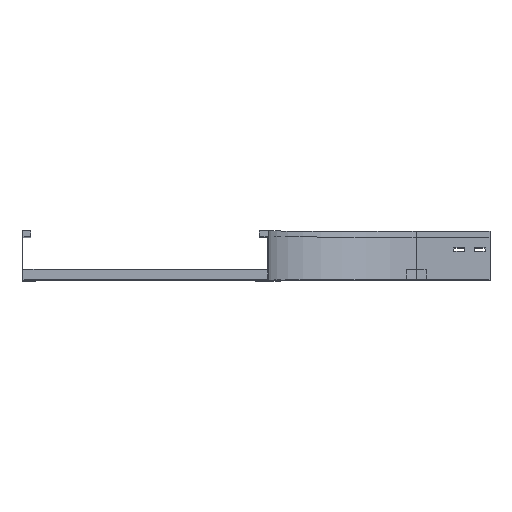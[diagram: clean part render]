
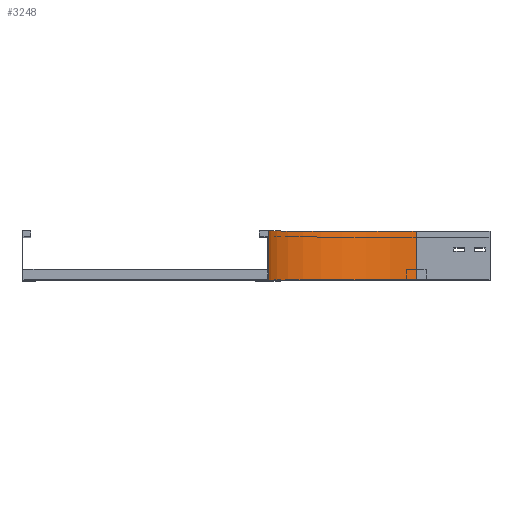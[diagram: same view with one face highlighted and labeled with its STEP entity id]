
A CAD part, top view. The second image highlights one B-rep face of the part: STEP entity #3248.
In plain terms, the highlighted cylindrical face has radius 300 mm (diameter 600 mm), a partial arc.
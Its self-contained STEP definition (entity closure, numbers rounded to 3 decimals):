
#77 = VERTEX_POINT ( 'NONE', #2075 ) ;
#194 = ORIENTED_EDGE ( 'NONE', *, *, #3470, .F. ) ;
#248 = DIRECTION ( 'NONE',  ( 0., -1., 0. ) ) ;
#266 = CARTESIAN_POINT ( 'NONE',  ( 0., 0., -150. ) ) ;
#351 = ORIENTED_EDGE ( 'NONE', *, *, #2603, .F. ) ;
#407 = ORIENTED_EDGE ( 'NONE', *, *, #3645, .T. ) ;
#641 = VECTOR ( 'NONE', #2258, 1000. ) ;
#757 = LINE ( 'NONE', #1945, #641 ) ;
#798 = EDGE_CURVE ( 'NONE', #77, #1840, #757, .T. ) ;
#837 = CIRCLE ( 'NONE', #1704, 300. ) ;
#902 = DIRECTION ( 'NONE',  ( -1., 0., 0. ) ) ;
#959 = AXIS2_PLACEMENT_3D ( 'NONE', #3018, #3054, #3076 ) ;
#1093 = CYLINDRICAL_SURFACE ( 'NONE', #2463, 300. ) ;
#1597 = CARTESIAN_POINT ( 'NONE',  ( 0., 100., -150. ) ) ;
#1686 = FACE_OUTER_BOUND ( 'NONE', #2819, .T. ) ;
#1704 = AXIS2_PLACEMENT_3D ( 'NONE', #3236, #248, #902 ) ;
#1707 = DIRECTION ( 'NONE',  ( 0., -1., 0. ) ) ;
#1792 = LINE ( 'NONE', #1812, #3758 ) ;
#1812 = CARTESIAN_POINT ( 'NONE',  ( 0., 0., -150. ) ) ;
#1840 = VERTEX_POINT ( 'NONE', #2072 ) ;
#1945 = CARTESIAN_POINT ( 'NONE',  ( 300., 0., -450. ) ) ;
#1965 = CIRCLE ( 'NONE', #959, 300. ) ;
#2072 = CARTESIAN_POINT ( 'NONE',  ( 300., 100., -450. ) ) ;
#2075 = CARTESIAN_POINT ( 'NONE',  ( 300., 0., -450. ) ) ;
#2258 = DIRECTION ( 'NONE',  ( 0., 1., 0. ) ) ;
#2312 = VERTEX_POINT ( 'NONE', #1597 ) ;
#2463 = AXIS2_PLACEMENT_3D ( 'NONE', #2581, #1707, #3245 ) ;
#2581 = CARTESIAN_POINT ( 'NONE',  ( 300., 0., -150. ) ) ;
#2603 = EDGE_CURVE ( 'NONE', #3499, #2312, #1792, .T. ) ;
#2819 = EDGE_LOOP ( 'NONE', ( #194, #351, #407, #3263 ) ) ;
#2980 = DIRECTION ( 'NONE',  ( 0., 1., 0. ) ) ;
#3018 = CARTESIAN_POINT ( 'NONE',  ( 300., 0., -150. ) ) ;
#3054 = DIRECTION ( 'NONE',  ( 0., -1., 0. ) ) ;
#3076 = DIRECTION ( 'NONE',  ( -1., 0., 0. ) ) ;
#3236 = CARTESIAN_POINT ( 'NONE',  ( 300., 100., -150. ) ) ;
#3245 = DIRECTION ( 'NONE',  ( 0., 0., -1. ) ) ;
#3248 = ADVANCED_FACE ( 'NONE', ( #1686 ), #1093, .F. ) ;
#3263 = ORIENTED_EDGE ( 'NONE', *, *, #798, .T. ) ;
#3470 = EDGE_CURVE ( 'NONE', #2312, #1840, #837, .T. ) ;
#3499 = VERTEX_POINT ( 'NONE', #266 ) ;
#3645 = EDGE_CURVE ( 'NONE', #3499, #77, #1965, .T. ) ;
#3758 = VECTOR ( 'NONE', #2980, 1000. ) ;
